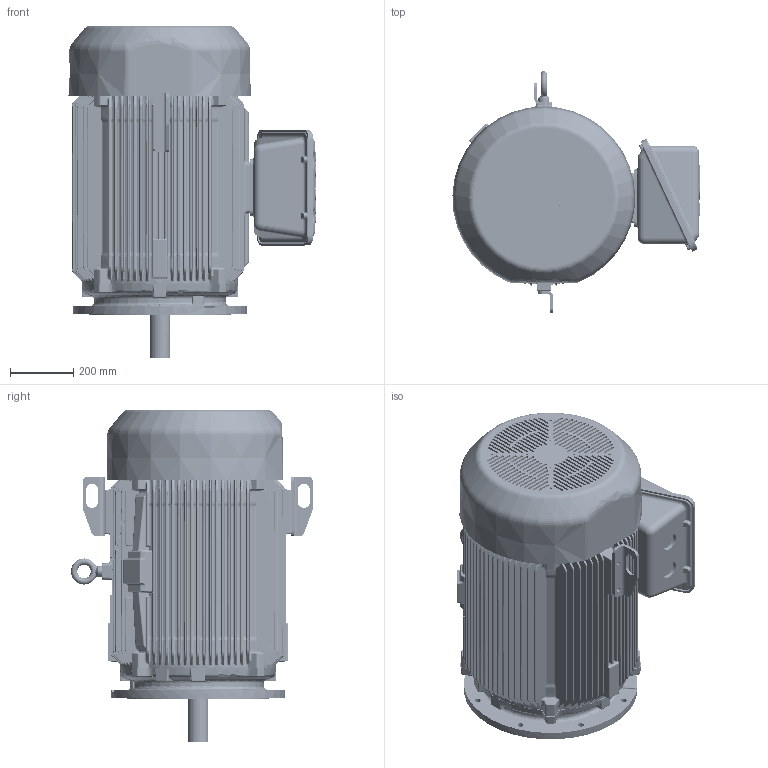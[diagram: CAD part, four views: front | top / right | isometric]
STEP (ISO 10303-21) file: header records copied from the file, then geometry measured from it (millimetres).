
FILE_DESCRIPTION((''),'2;1');
FILE_NAME('280_B5_ASM_ASM','2020-09-13T08:53:33',('EMD2341'),('Nidec Motor Corporation'),'CREO PARAMETRIC BY PTC INC, 2019080','CREO PARAMETRIC BY PTC INC, 2019080','');
FILE_SCHEMA(('CONFIG_CONTROL_DESIGN'));
Length unit declared in the file: inch
Products named in the file (11): 440_FOOTLESS_FRAME; 0011046; 440_CAST_GSK_OBB; 280_IEC; 440_CAST_GSK_OBC; 440_CAST_OBC; 440_STL_FCVR; 2020047; 280_2POLE; 280_IEC_B5_6313; 280_B5_ASM_ASM
Assembly tree (11 placements, depth 2):
  280_B5_ASM_ASM
    440_FOOTLESS_FRAME
    0011046
    440_CAST_GSK_OBB
    280_IEC
    440_CAST_GSK_OBC
    440_CAST_OBC
    440_STL_FCVR
    2020047  x2
    280_2POLE
    280_IEC_B5_6313
Bounding box: 781.98 x 765.85 x 1050.54 mm (x, y, z)
Volume: 216264800.6 mm3; surface area: 6337595.4 mm2
Topology: 11 solids, 12 shells, 6250 faces, 14304 edges, 8212 vertices
Faces by surface type: bspline 2656, cylinder 1367, plane 1270, extrusion 448, torus 340, sphere 105, cone 64
Entity records: 281199 total; most frequent: CARTESIAN_POINT 159774, ORIENTED_EDGE 28462, DIRECTION 19925, EDGE_CURVE 14233, VERTEX_POINT 8168, AXIS2_PLACEMENT_3D 7387, EDGE_LOOP 6393, FACE_OUTER_BOUND 6222
